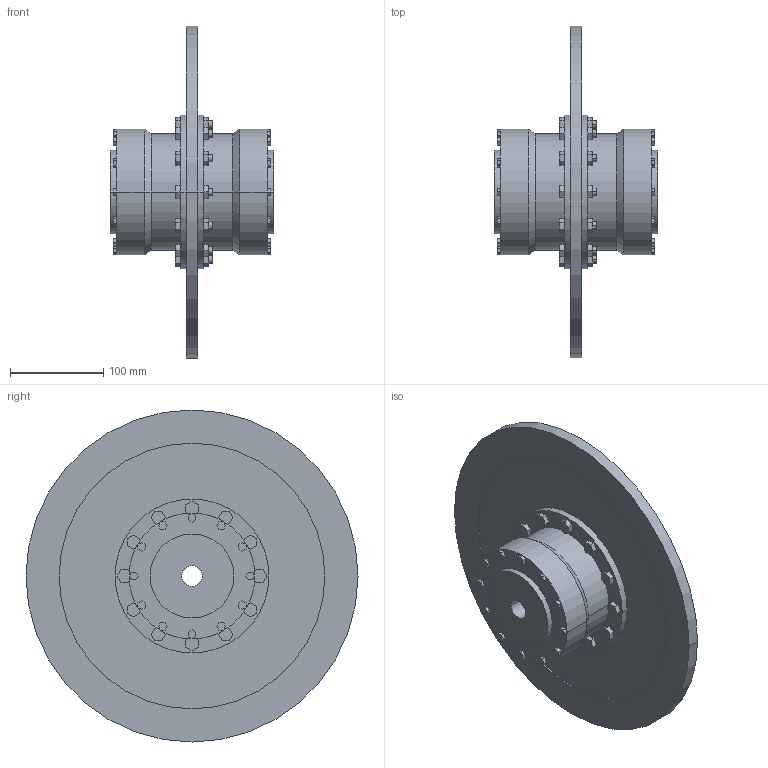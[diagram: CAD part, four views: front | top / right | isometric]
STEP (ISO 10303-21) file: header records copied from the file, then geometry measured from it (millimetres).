
FILE_DESCRIPTION((''),'2;1');
FILE_NAME('A19729900-0_ASM','2019-05-23T',('AB_Roschiwal'),('RENK AG'),'PRO/ENGINEER BY PARAMETRIC TECHNOLOGY CORPORATION, 2015440','PRO/ENGINEER BY PARAMETRIC TECHNOLOGY CORPORATION, 2015440','');
FILE_SCHEMA(('CONFIG_CONTROL_DESIGN'));
Length unit declared in the file: millimetre
Products named in the file (4): SBKT60_GEHAEUSE; SBKT60_NABE; SBKT60_BREMSSCHEIBE; A19729900-0_ASM
Assembly tree (4 placements, depth 2):
  A19729900-0_ASM
    SBKT60_GEHAEUSE
    SBKT60_NABE  x2
    SBKT60_BREMSSCHEIBE
Bounding box: 175 x 356 x 356 mm (x, y, z)
Volume: 2793823.4 mm3; surface area: 488944.1 mm2
Topology: 4 solids, 4 shells, 470 faces, 1156 edges, 768 vertices
Faces by surface type: plane 370, cylinder 96, cone 4
Entity records: 13604 total; most frequent: CARTESIAN_POINT 2350, ORIENTED_EDGE 2264, DIRECTION 2240, EDGE_CURVE 1132, VECTOR 956, LINE 956, VERTEX_POINT 752, AXIS2_PLACEMENT_3D 642
